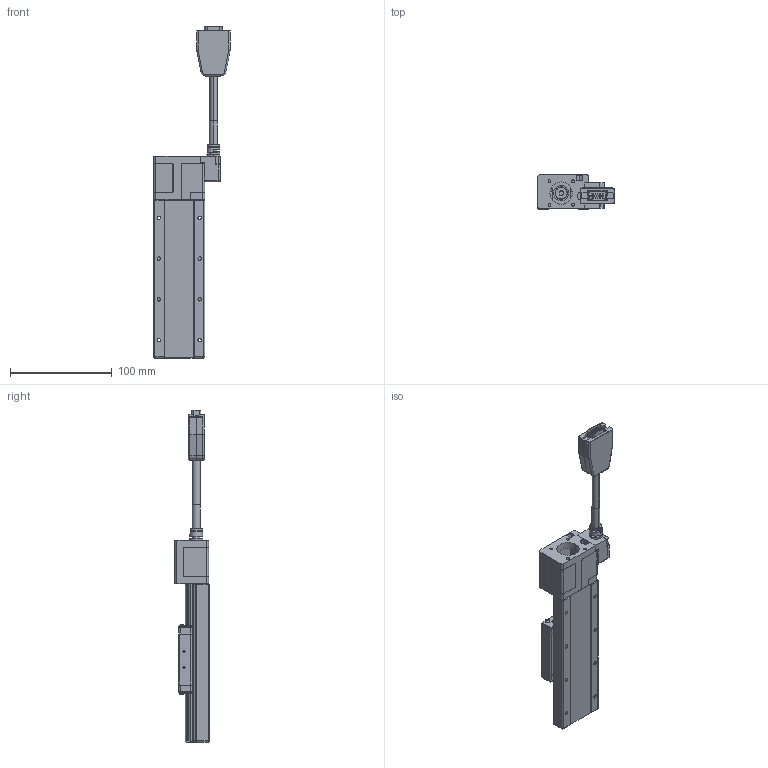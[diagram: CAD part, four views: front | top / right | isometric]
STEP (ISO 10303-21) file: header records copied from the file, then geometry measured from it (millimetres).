
FILE_DESCRIPTION (( 'STEP AP203' ), '1' );
FILE_NAME ('CXN5075-S2?N(42框無馬達).', '2024-01-05T02:19:57', ( '' ), ( '' ), 'SwSTEP 2.0', 'SolidWorks 2019', '' );
FILE_SCHEMA (( 'CONFIG_CONTROL_DESIGN' ));
Products named in the file (3): CXN5075-S2?N(42框無馬達); Group2^CXN5075-S2?N(42框無馬達)_defeature_GMT; Group1^CXN5075-S2?N(42框無馬達)_defeature_GMT
Assembly tree (2 placements, depth 2):
  CXN5075-S2?N(42框無馬達)
    Group1^CXN5075-S2?N(42框無馬達)_defeature_GMT
    Group2^CXN5075-S2?N(42框無馬達)_defeature_GMT
Bounding box: 75 x 33.5 x 325.6 mm (x, y, z)
Volume: 31065.6 mm3; surface area: 89006 mm2
Topology: 2 solids, 8 shells, 6078 faces, 15634 edges, 9617 vertices
Faces by surface type: plane 2873, bspline 1450, cylinder 1270, torus 196, sphere 160, cone 129
Entity records: 205217 total; most frequent: CARTESIAN_POINT 70015, ORIENTED_EDGE 30738, DIRECTION 23320, EDGE_CURVE 15369, VERTEX_POINT 9584, LINE 8270, VECTOR 8270, AXIS2_PLACEMENT_3D 7525
